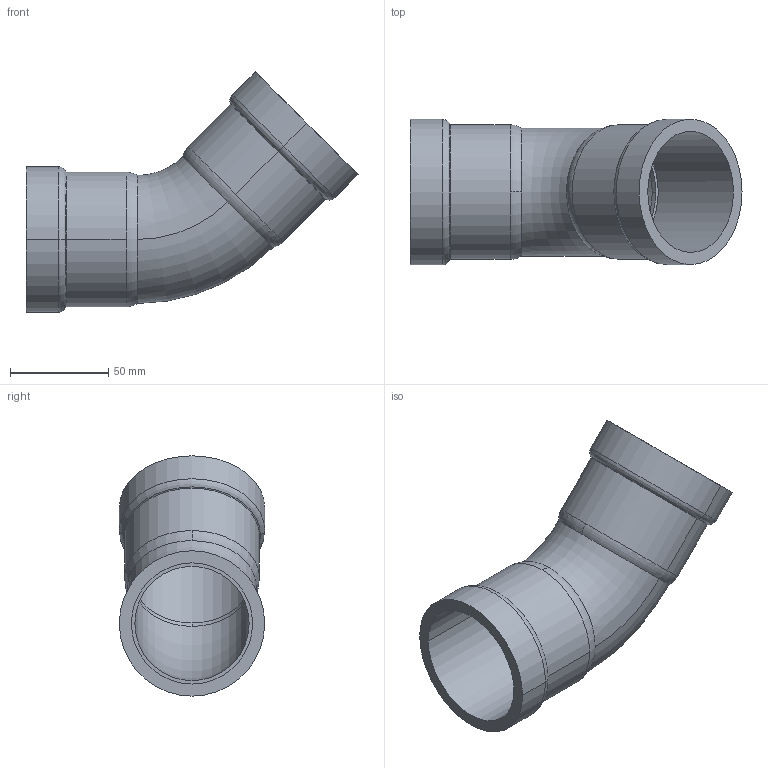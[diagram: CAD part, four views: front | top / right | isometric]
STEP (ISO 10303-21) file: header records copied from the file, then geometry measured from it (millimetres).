
FILE_DESCRIPTION(('Creo Elements/Direct Modeling STEP Export'),'2;1');
FILE_NAME('C9413_2.stp','2020-07-14T16:14:43',(''),(''),'PTC Creo Elements/Direct Modeling STEP processor for AP214 (Solid Model)','PTC Creo Elements/Direct Modeling 19.0C 15-Aug-2015 (C) Parametric Technology GmbH','');
FILE_SCHEMA(('AUTOMOTIVE_DESIGN { 1 0 10303 214 1 1 1 1 }'));
Length unit declared in the file: millimetre
Products named in the file (2): 9413_2
Assembly tree (1 placements, depth 2):
  9413_2
    9413_2
Bounding box: 168.54 x 73.8 x 122 mm (x, y, z)
Volume: 137028 mm3; surface area: 70319.6 mm2
Topology: 1 solids, 1 shells, 36 faces, 84 edges, 52 vertices
Faces by surface type: cylinder 16, torus 12, plane 4, cone 4
Entity records: 1748 total; most frequent: CARTESIAN_POINT 933, ORIENTED_EDGE 168, DIRECTION 162, EDGE_CURVE 84, AXIS2_PLACEMENT_3D 71, VERTEX_POINT 52, EDGE_LOOP 40, FACE_OUTER_BOUND 36
